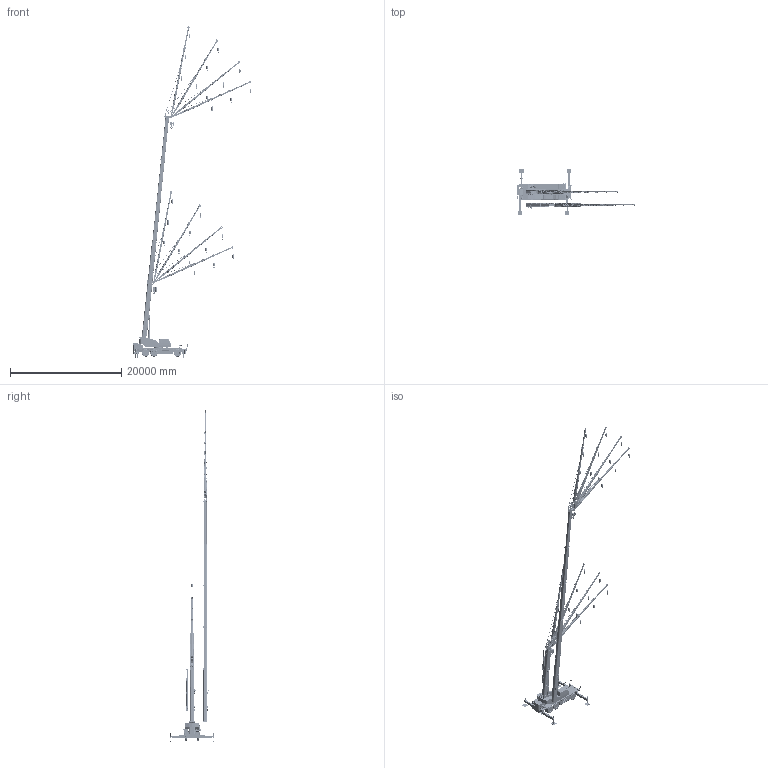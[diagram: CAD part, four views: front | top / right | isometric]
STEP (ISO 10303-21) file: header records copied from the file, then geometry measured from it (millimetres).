
FILE_DESCRIPTION(('CATIA V5 STEP Exchange','CAx-IF Rec.Pracs.--- Model Styling and Organization---1.4--- 2014-01-23'),'2;1');
FILE_NAME('\\Iba001\cad\CR\HP用CADデータ\21A\SL-600RfⅢ\3D\完成データ\SL-600Rf3 3D.stp','2024-06-24T22:30:54+00:00',('none'),('none'),'CATIA Version 5-6 Release 2017 SP5 HF78','CATIA V5 STEP AP214','none');
FILE_SCHEMA(('AUTOMOTIVE_DESIGN { 1 0 10303 214 1 1 1 1 }'));
Products named in the file (50): SL-600Rf3 3D; SL-600Rf3 UPPER; SL-600Rf3 UPPER STRUCTURE; SL-600Rf3 TABLE; SL-600Rf3 CAB; SL-600Rf3 MACHINE ROOM; SL-600Rf3 DERRICK CYLINDER-1; SL-600Rf3 DERRICK CYLINDER-2; SL-600Rf3 BOOM JIB Min; SL-600Rf3 BOOM Min; SL-600Rf3 BOOM1; SL-600Rf3 BOOM2; SL-600Rf3 BOOM3; SL-600Rf3 BOOM4; SL-600Rf3 BOOM5; SL-600Rf3 JIB; SL-600Rf3 JIB 8.92m 5deg; SL-600Rf3 JIB1; SL-600Rf3 JIB2; SL-600Rf3 JIB3; SL-600Rf3 JIB4; SL-600Rf3 JIB TENSION ROD; SL-600Rf3 JIB 8.92m 25deg; SL-600Rf3 JIB 8.92m 45deg; SL-600Rf3 JIB 8.92m 60deg; SL-600Rf3 JIB 12.7m 5deg; SL-600Rf3 JIB 12.7m 25deg; SL-600Rf3 JIB 12.7m 45deg; SL-600Rf3 JIB 12.7m 60deg; SL-600Rf3 JIB 16.5m 5deg; SL-600Rf3 JIB 16.5m 25deg; SL-600Rf3 JIB 16.5m 45deg; SL-600Rf3 JIB 16.5m 60deg; SL-600Rf3 JIB Stowed; SL-600Rf3 JIB TENSION ROD Stowed; SL-600Rf3 HOOK 5.6t; SL-600Rf3 HOOK 34t; SL-600Rf3 HOOK 60t; SL-600Rf3 BOOM JIB Max; SL-600Rf3 BOOM Max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
Assembly tree (149 placements, depth 6):
  SL-600Rf3 3D
    SL-600Rf3 UPPER
      SL-600Rf3 UPPER STRUCTURE
        SL-600Rf3 TABLE
        SL-600Rf3 CAB
        SL-600Rf3 MACHINE ROOM
        SL-600Rf3 DERRICK CYLINDER-1
        SL-600Rf3 DERRICK CYLINDER-2
      SL-600Rf3 BOOM JIB Min
        SL-600Rf3 BOOM Min
          SL-600Rf3 BOOM1
          SL-600Rf3 BOOM2
          SL-600Rf3 BOOM3
          SL-600Rf3 BOOM4
          SL-600Rf3 BOOM5
        SL-600Rf3 JIB
          SL-600Rf3 JIB 8.92m 5deg
            SL-600Rf3 JIB1
            SL-600Rf3 JIB2
            SL-600Rf3 JIB3
            SL-600Rf3 JIB4
            SL-600Rf3 JIB TENSION ROD
          SL-600Rf3 JIB 8.92m 25deg
            SL-600Rf3 JIB1
            SL-600Rf3 JIB2
            SL-600Rf3 JIB3
            SL-600Rf3 JIB4
            SL-600Rf3 JIB TENSION ROD
          SL-600Rf3 JIB 8.92m 45deg
            SL-600Rf3 JIB1
            SL-600Rf3 JIB2
            SL-600Rf3 JIB3
            SL-600Rf3 JIB4
            SL-600Rf3 JIB TENSION ROD
          SL-600Rf3 JIB 8.92m 60deg
            SL-600Rf3 JIB1
            SL-600Rf3 JIB2
            SL-600Rf3 JIB3
            SL-600Rf3 JIB4
            SL-600Rf3 JIB TENSION ROD
          SL-600Rf3 JIB 12.7m 5deg
            SL-600Rf3 JIB1
            SL-600Rf3 JIB2
            SL-600Rf3 JIB3
            SL-600Rf3 JIB4
            SL-600Rf3 JIB TENSION ROD
          SL-600Rf3 JIB 12.7m 25deg
            SL-600Rf3 JIB1
            SL-600Rf3 JIB2
            SL-600Rf3 JIB3
            SL-600Rf3 JIB4
            SL-600Rf3 JIB TENSION ROD
          SL-600Rf3 JIB 12.7m 45deg
            SL-600Rf3 JIB1
            SL-600Rf3 JIB2
            SL-600Rf3 JIB3
            SL-600Rf3 JIB4
            SL-600Rf3 JIB TENSION ROD
          SL-600Rf3 JIB 12.7m 60deg
            SL-600Rf3 JIB1
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Bounding box: 21352.57 x 8400 x 59790.13 mm (x, y, z)
Volume: 100559965038.7 mm3; surface area: 1210509117 mm2
Topology: 292 solids, 292 shells, 28715 faces, 78237 edges, 50935 vertices
Faces by surface type: plane 18561, cylinder 6459, extrusion 2092, torus 1199, bspline 249, cone 137, sphere 16, revolution 2
Entity records: 169096 total; most frequent: CARTESIAN_POINT 59661, ORIENTED_EDGE 25206, DIRECTION 16913, EDGE_CURVE 12603, VECTOR 8294, VERTEX_POINT 8215, LINE 7774, AXIS2_PLACEMENT_3D 5452
